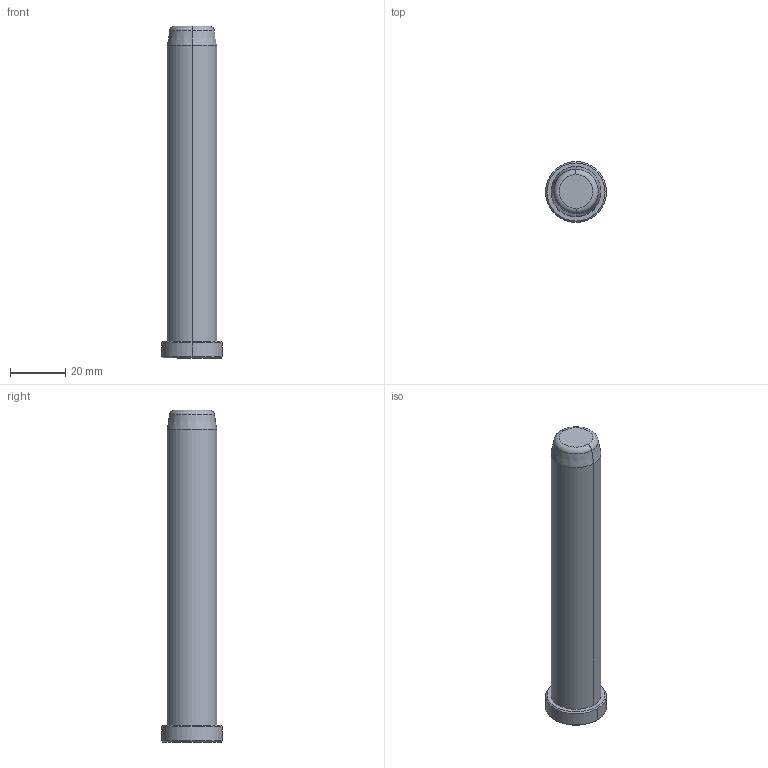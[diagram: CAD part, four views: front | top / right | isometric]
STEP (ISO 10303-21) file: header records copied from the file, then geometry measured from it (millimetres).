
FILE_DESCRIPTION((''),'2;1');
FILE_NAME('B81818120','2018-01-06T',('MANU'),(''),'PRO/ENGINEER BY PARAMETRIC TECHNOLOGY CORPORATION, 2012130','PRO/ENGINEER BY PARAMETRIC TECHNOLOGY CORPORATION, 2012130','');
FILE_SCHEMA(('CONFIG_CONTROL_DESIGN'));
Length unit declared in the file: millimetre
Products named in the file (1): B81818120
Bounding box: 22 x 22 x 120 mm (x, y, z)
Volume: 31013.7 mm3; surface area: 7465 mm2
Topology: 1 solids, 1 shells, 15 faces, 28 edges, 16 vertices
Faces by surface type: cone 6, cylinder 4, plane 3, torus 2
Entity records: 414 total; most frequent: DIRECTION 76, CARTESIAN_POINT 59, ORIENTED_EDGE 56, AXIS2_PLACEMENT_3D 33, EDGE_CURVE 28, CIRCLE 18, VERTEX_POINT 16, EDGE_LOOP 16
